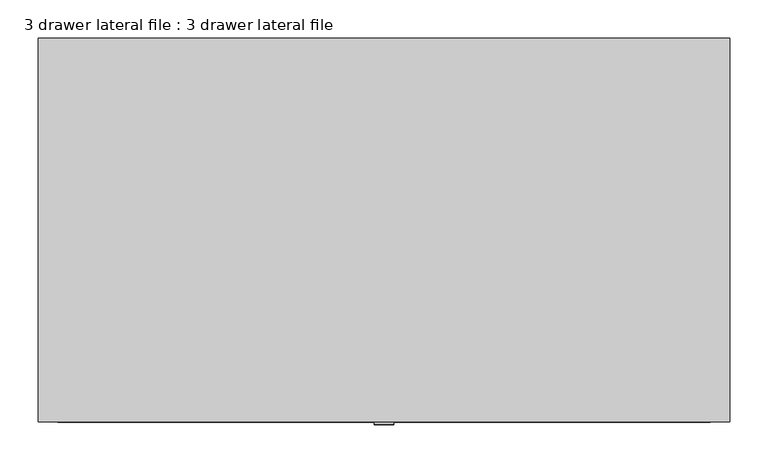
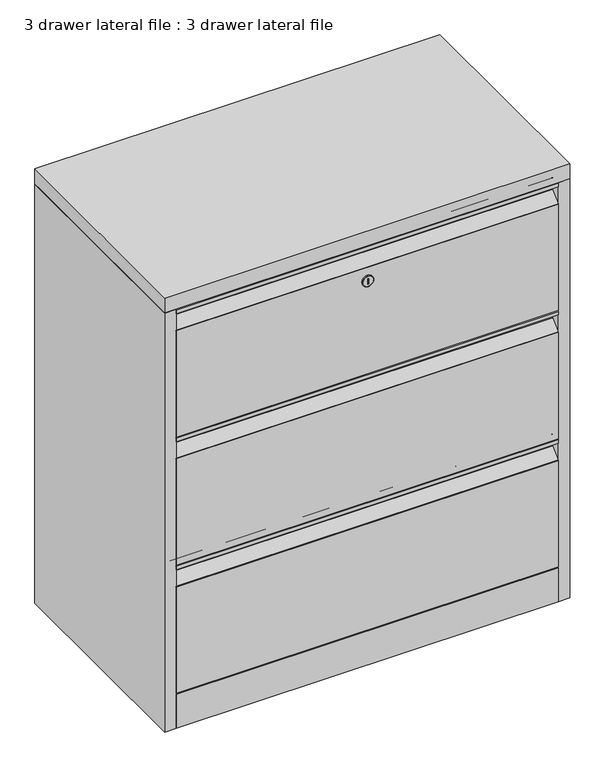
"""IFC4 building model written with IfcOpenShell, lengths in millimetres: furniture geometry, 3 drawer lateral file : 3 drawer lateral file."""

from ifc_helpers import new_model, si_unit, point, frame, frame_2d, origin, origin_with_axes, place, context, project, spatial, polyline, circle_curve, ellipse_curve, trimmed, segment, composite_curve, outline, extrude, source, transform, mapped, element, save
from ifc_brep_helpers import plane_surface, cylinder_surface, revolved_surface, advanced_brep


def furniture_3_drawer_lateral_file_3_drawer_lateral_file_a152fcf4(model_context):
    return source(origin(), model_context, "Body", "SolidModel", [
        extrude(outline(composite_curve([segment(polyline([(-225.0, 984.7833333), (-225.0, 956.1566946)]), True, "CONTINUOUS"), segment(trimmed(circle_curve(frame_2d((-228.1021897, 956.1566946)), 3.1021897), [point((-225.0, 956.1566946))], [point((-226.0167258, 953.8600838))], False, "CARTESIAN"), True, "CONTINUOUS"), segment(polyline([(-226.0167258, 953.8600838), (-247.3097129, 934.5247423)]), True, "CONTINUOUS"), segment(trimmed(circle_curve(frame_2d((-245.8938261, 932.9655012)), 2.1061739), [point((-247.3097129, 934.5247423))], [point((-248.0, 932.9655012))], True, "CARTESIAN"), True, "CONTINUOUS"), segment(polyline([(-248.0, 932.9655012), (-248.0, 686.4166667), (-225.0, 686.4166667), (-225.0, 684.4166667), (-250.0, 684.4166667), (-250.0, 933.9772283)]), True, "CONTINUOUS"), segment(trimmed(circle_curve(frame_2d((-248.1791457, 933.9772283)), 1.8208543), [point((-250.0, 933.9772283))], [point((-249.4032249, 935.3252418))], False, "CARTESIAN"), True, "CONTINUOUS"), segment(polyline([(-249.4032249, 935.3252418), (-227.5662702, 955.1545393)]), True, "CONTINUOUS"), segment(trimmed(circle_curve(frame_2d((-228.727779, 956.4336474)), 1.727779), [point((-227.5662702, 955.1545393))], [point((-227.0, 956.4336474))], True, "CARTESIAN"), True, "CONTINUOUS"), segment(polyline([(-227.0, 956.4336474), (-227.0, 980.7457952)]), True, "CONTINUOUS"), segment(trimmed(circle_curve(frame_2d((-229.0375381, 980.7457952)), 2.0375381), [point((-227.0, 980.7457952))], [point((-229.0375381, 982.7833333))], True, "CARTESIAN"), True, "CONTINUOUS"), segment(polyline([(-229.0375381, 982.7833333), (-248.0, 982.7833333), (-248.0, 974.7833333), (-250.0, 974.7833333), (-250.0, 982.9227882)]), True, "CONTINUOUS"), segment(trimmed(circle_curve(frame_2d((-248.1394549, 982.9227882)), 1.8605451), [point((-250.0, 982.9227882))], [point((-248.1394549, 984.7833333))], False, "CARTESIAN"), True, "CONTINUOUS"), segment(polyline([(-248.1394549, 984.7833333), (-225.0, 984.7833333)]), True, "CONTINUOUS")], self_intersect=False)), frame((-425.0, 0.0, 0.0), z_axis=(1.0, 0.0, 0.0), x_axis=(0.0, 1.0, 0.0)), (0.0, 0.0, 1.0), 850.0),
        extrude(outline(composite_curve([segment(polyline([(-225.0, 683.8), (-225.0, 655.1733613)]), True, "CONTINUOUS"), segment(trimmed(circle_curve(frame_2d((-228.1021897, 655.1733613)), 3.1021897), [point((-225.0, 655.1733613))], [point((-226.0167258, 652.8767504))], False, "CARTESIAN"), True, "CONTINUOUS"), segment(polyline([(-226.0167258, 652.8767504), (-247.3097129, 633.541409)]), True, "CONTINUOUS"), segment(trimmed(circle_curve(frame_2d((-245.8938261, 631.9821678)), 2.1061739), [point((-247.3097129, 633.541409))], [point((-248.0, 631.9821678))], True, "CARTESIAN"), True, "CONTINUOUS"), segment(polyline([(-248.0, 631.9821678), (-248.0, 385.4333333), (-225.0, 385.4333333), (-225.0, 383.4333333), (-250.0, 383.4333333), (-250.0, 632.993895)]), True, "CONTINUOUS"), segment(trimmed(circle_curve(frame_2d((-248.1791457, 632.993895)), 1.8208543), [point((-250.0, 632.993895))], [point((-249.4032249, 634.3419085))], False, "CARTESIAN"), True, "CONTINUOUS"), segment(polyline([(-249.4032249, 634.3419085), (-227.5662702, 654.171206)]), True, "CONTINUOUS"), segment(trimmed(circle_curve(frame_2d((-228.727779, 655.4503141)), 1.727779), [point((-227.5662702, 654.171206))], [point((-227.0, 655.4503141))], True, "CARTESIAN"), True, "CONTINUOUS"), segment(polyline([(-227.0, 655.4503141), (-227.0, 679.7624619)]), True, "CONTINUOUS"), segment(trimmed(circle_curve(frame_2d((-229.0375381, 679.7624619)), 2.0375381), [point((-227.0, 679.7624619))], [point((-229.0375381, 681.8))], True, "CARTESIAN"), True, "CONTINUOUS"), segment(polyline([(-229.0375381, 681.8), (-248.0, 681.8), (-248.0, 673.8), (-250.0, 673.8), (-250.0, 681.9394549)]), True, "CONTINUOUS"), segment(trimmed(circle_curve(frame_2d((-248.1394549, 681.9394549)), 1.8605451), [point((-250.0, 681.9394549))], [point((-248.1394549, 683.8))], False, "CARTESIAN"), True, "CONTINUOUS"), segment(polyline([(-248.1394549, 683.8), (-225.0, 683.8)]), True, "CONTINUOUS")], self_intersect=False)), frame((-425.0, 0.0, 0.0), z_axis=(1.0, 0.0, 0.0), x_axis=(0.0, 1.0, 0.0)), (0.0, 0.0, 1.0), 850.0),
        extrude(outline(composite_curve([segment(polyline([(-225.0, 382.4166667), (-225.0, 353.7900279)]), True, "CONTINUOUS"), segment(trimmed(circle_curve(frame_2d((-228.1021897, 353.7900279)), 3.1021897), [point((-225.0, 353.7900279))], [point((-226.0167258, 351.4934171))], False, "CARTESIAN"), True, "CONTINUOUS"), segment(polyline([(-226.0167258, 351.4934171), (-247.3097129, 332.1580756)]), True, "CONTINUOUS"), segment(trimmed(circle_curve(frame_2d((-245.8938261, 330.5988345)), 2.1061739), [point((-247.3097129, 332.1580756))], [point((-248.0, 330.5988345))], True, "CARTESIAN"), True, "CONTINUOUS"), segment(polyline([(-248.0, 330.5988345), (-248.0, 84.05), (-225.0, 84.05), (-225.0, 82.05), (-250.0, 82.05), (-250.0, 331.6105616)]), True, "CONTINUOUS"), segment(trimmed(circle_curve(frame_2d((-248.1791457, 331.6105616)), 1.8208543), [point((-250.0, 331.6105616))], [point((-249.4032249, 332.9585752))], False, "CARTESIAN"), True, "CONTINUOUS"), segment(polyline([(-249.4032249, 332.9585752), (-227.5662702, 352.7878726)]), True, "CONTINUOUS"), segment(trimmed(circle_curve(frame_2d((-228.727779, 354.0669808)), 1.727779), [point((-227.5662702, 352.7878726))], [point((-227.0, 354.0669808))], True, "CARTESIAN"), True, "CONTINUOUS"), segment(polyline([(-227.0, 354.0669808), (-227.0, 378.3791286)]), True, "CONTINUOUS"), segment(trimmed(circle_curve(frame_2d((-229.0375381, 378.3791286)), 2.0375381), [point((-227.0, 378.3791286))], [point((-229.0375381, 380.4166667))], True, "CARTESIAN"), True, "CONTINUOUS"), segment(polyline([(-229.0375381, 380.4166667), (-248.0, 380.4166667), (-248.0, 372.4166667), (-250.0, 372.4166667), (-250.0, 380.5561215)]), True, "CONTINUOUS"), segment(trimmed(circle_curve(frame_2d((-248.1394549, 380.5561215)), 1.8605451), [point((-250.0, 380.5561215))], [point((-248.1394549, 382.4166667))], False, "CARTESIAN"), True, "CONTINUOUS"), segment(polyline([(-248.1394549, 382.4166667), (-225.0, 382.4166667)]), True, "CONTINUOUS")], self_intersect=False)), frame((-425.0, 0.0, 0.0), z_axis=(1.0, 0.0, 0.0), x_axis=(0.0, 1.0, 0.0)), (0.0, 0.0, 1.0), 850.0),
        extrude(outline(polyline([(1.0273848, -250.0), (-0.9726152, -250.0), (-0.9726152, -150.0), (1.0273848, -150.0), (1.0273848, -250.0)])), frame((0.0, 0.0, 898.1206655), z_axis=(0.0, 0.0, 1.0), x_axis=(1.0, 0.0, 0.0)), (0.0, 0.0, 1.0), 12.0),
        advanced_brep(
        [(-11.5526635, -254.0, 904.0526635), (11.5526635, -254.0, 904.0526635), (1.0273848, -254.0, 910.1206655), (1.0273848, -254.0, 898.1206655), (-0.9726152, -254.0, 898.1206655), (-0.9726152, -254.0, 910.1206655), (-12.5526635, -250.0, 904.0526635), (12.5526635, -250.0, 904.0526635), (1.0273848, -250.0, 910.1206655), (-0.9726152, -250.0, 910.1206655), (-0.9726152, -250.0, 898.1206655), (1.0273848, -250.0, 898.1206655), (12.5526635, -253.0, 904.0526635), (-12.5526635, -253.0, 904.0526635)],
        [
            (0, 1, circle_curve(frame((0.0, -254.0, 904.0526635), z_axis=(0.0, -1.0, 0.0), x_axis=(1.0, 0.0, 0.0)), 11.5526635)),
            (1, 0, circle_curve(frame((0.0, -254.0, 904.0526635), z_axis=(0.0, -1.0, 0.0), x_axis=(-1.0, 0.0, 0.0)), 11.5526635)),
            (2, 3),
            (3, 4),
            (4, 5),
            (5, 2),
            (6, 7, circle_curve(frame((0.0, -250.0, 904.0526635), z_axis=(0.0, 1.0, 0.0), x_axis=(1.0, 0.0, 0.0)), 12.5526635)),
            (7, 6, circle_curve(frame((0.0, -250.0, 904.0526635), z_axis=(0.0, 1.0, 0.0), x_axis=(1.0, 0.0, 0.0)), 12.5526635)),
            (8, 9),
            (9, 10),
            (10, 11),
            (11, 8),
            (7, 12),
            (12, 13, circle_curve(frame((0.0, -253.0, 904.0526635), z_axis=(0.0, 1.0, 0.0), x_axis=(1.0, 0.0, 0.0)), 12.5526635)),
            (13, 6),
            (13, 12, circle_curve(frame((0.0, -253.0, 904.0526635), z_axis=(0.0, 1.0, 0.0), x_axis=(1.0, 0.0, 0.0)), 12.5526635)),
            (2, 8),
            (11, 3),
            (10, 4),
            (9, 5),
            (0, 13, circle_curve(frame((-11.5526635, -253.0, 904.0526635), z_axis=(0.0, 0.0, -1.0), x_axis=(-1.0, 0.0, 0.0)), 1.0)),
            (12, 1, circle_curve(frame((11.5526635, -253.0, 904.0526635), z_axis=(0.0, 0.0, -1.0), x_axis=(1.0, 0.0, 0.0)), 1.0)),
        ],
        [
            plane_surface(frame((12.5526635, -254.0, 904.0526635), z_axis=(0.0, -1.0, 0.0), x_axis=(0.0, 0.0, 1.0))),
            plane_surface(frame((12.5526635, -250.0, 904.0526635), z_axis=(0.0, 1.0, 0.0), x_axis=(0.0, 0.0, -1.0))),
            cylinder_surface(frame((0.0, -250.0, 904.0526635), z_axis=(0.0, -1.0, 0.0), x_axis=(1.0, 0.0, 0.0)), 12.5526635),
            plane_surface(frame((1.0273848, -254.0, 910.1206655), z_axis=(-1.0, 0.0, 0.0), x_axis=(0.0, 1.0, 0.0))),
            plane_surface(frame((1.0273848, -254.0, 898.1206655), z_axis=(0.0, 0.0, 1.0), x_axis=(0.0, 1.0, 0.0))),
            plane_surface(frame((-0.9726152, -254.0, 898.1206655), z_axis=(1.0, 0.0, 0.0), x_axis=(0.0, 1.0, 0.0))),
            plane_surface(frame((-0.9726152, -254.0, 910.1206655), z_axis=(0.0, 0.0, -1.0), x_axis=(0.0, 1.0, 0.0))),
            revolved_surface(trimmed(ellipse_curve(frame((11.5526635, -253.0, 904.0526635), z_axis=(0.0, 0.0, 1.0), x_axis=(1.0, 0.0, 0.0)), 1.0, 1.0), [point((11.5526635, -254.0, 904.0526635))], [point((12.5526635, -253.0, 904.0526635))], True, "CARTESIAN"), (0.0, -254.0, 904.0526635), (0.0, 1.0, 0.0)),
            revolved_surface(trimmed(ellipse_curve(frame((-11.5526635, -253.0, 904.0526635), z_axis=(0.0, 0.0, -1.0), x_axis=(-1.0, 0.0, 0.0)), 1.0, 1.0), [point((-11.5526635, -254.0, 904.0526635))], [point((-12.5526635, -253.0, 904.0526635))], True, "CARTESIAN"), (0.0, -254.0, 904.0526635), (0.0, 1.0, 0.0)),
        ],
        [
            (0, [[1, 2], [3, 4, 5, 6]]),
            (1, [[7, 8], [9, 10, 11, 12]]),
            (2, [[-8, 13, 14, 15]]),
            (2, [[-7, -15, 16, -13]]),
            (3, [[-3, 17, -12, 18]]),
            (4, [[-4, -18, -11, 19]]),
            (5, [[-5, -19, -10, 20]]),
            (6, [[-6, -20, -9, -17]]),
            (7, [[21, -14, 22, -1]]),
            (8, [[-21, -2, -22, -16]]),
        ],
    ),
        extrude(outline(polyline([(424.5, -150.0), (424.5, -250.0), (-424.5107425, -250.0), (-424.5107425, -150.0), (424.5, -150.0)])), origin_with_axes(), (0.0, 0.0, 1.0), 80.0),
        extrude(outline(polyline([(425.0, -150.0), (-425.0, -150.0), (-425.0, 225.0), (425.0, 225.0), (425.0, -150.0)])), origin_with_axes(), (0.0, 0.0, 1.0), 1.0),
        extrude(outline(polyline([(-425.0, 250.0), (-425.0, -250.0), (-450.0, -250.0), (-450.0, 250.0), (-425.0, 250.0)])), origin_with_axes(), (0.0, 0.0, 1.0), 984.6125),
        extrude(outline(polyline([(450.0, 250.0), (450.0, -250.0), (425.0, -250.0), (425.0, 250.0), (450.0, 250.0)])), origin_with_axes(), (0.0, 0.0, 1.0), 984.6125),
        extrude(outline(polyline([(425.0, 250.0), (425.0, 225.0), (-425.0, 225.0), (-425.0, 250.0), (425.0, 250.0)])), origin_with_axes(), (0.0, 0.0, 1.0), 985.0),
        extrude(outline(polyline([(450.0, 250.0), (450.0, -250.0), (-450.0, -250.0), (-450.0, 250.0), (450.0, 250.0)])), frame((0.0, 0.0, 985.0), z_axis=(0.0, 0.0, 1.0), x_axis=(1.0, 0.0, 0.0)), (0.0, 0.0, 1.0), 35.0),
    ])


if __name__ == "__main__":
    model = new_model("IFC4")
    model_context = context("Model", 3, world=origin())
    ifc_project = project(units=[si_unit("LENGTHUNIT", "METRE", prefix="MILLI")], contexts=[model_context])
    site = spatial("IfcSite", under=ifc_project)
    building = spatial("IfcBuilding", under=site)
    placement = place(None, origin())
    furniture_3_drawer_lateral_file_3_drawer_lateral_file_shape = furniture_3_drawer_lateral_file_3_drawer_lateral_file_a152fcf4(model_context)
    element("IfcFurniture", 1, ObjectType="3 drawer lateral file : 3 drawer lateral file", at=placement, inside=building, context=model_context, shape_type="MappedRepresentation", body=[
        mapped(furniture_3_drawer_lateral_file_3_drawer_lateral_file_shape, transform((0.0, 0.0, 0.0), x_axis=(1.0, 0.0, 0.0), y_axis=(0.0, 1.0, 0.0), z_axis=(0.0, 0.0, 1.0))),
    ])
    save(model, "model.ifc")
